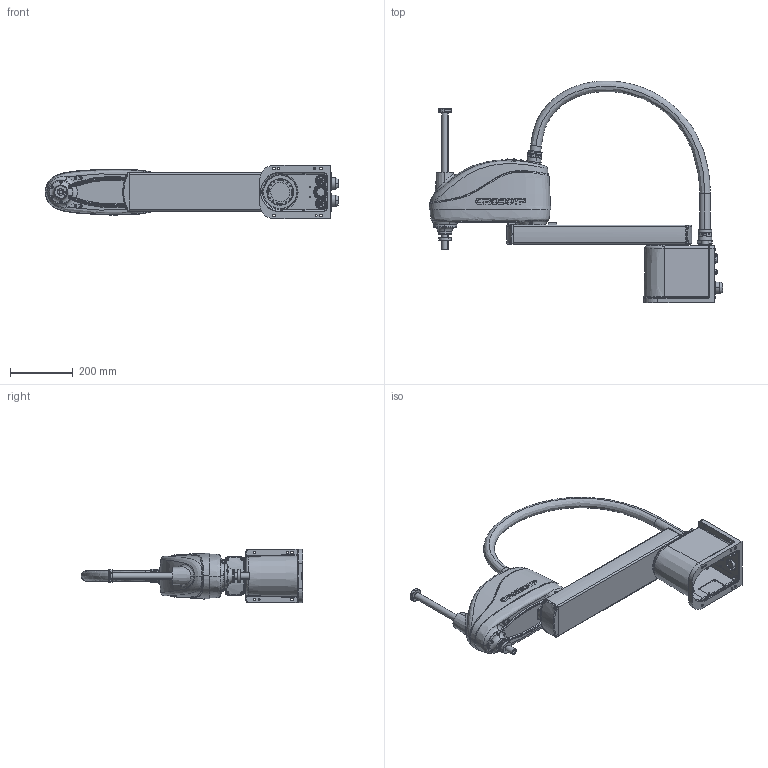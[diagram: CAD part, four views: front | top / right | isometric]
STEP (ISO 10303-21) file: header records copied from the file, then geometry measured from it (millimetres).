
FILE_DESCRIPTION (( 'STEP AP214' ), '1' );
FILE_NAME ('CRP-RS07-06.STEP', '2023-02-21T11:08:40', ( '' ), ( '' ), 'SwSTEP 2.0', 'SolidWorks 2016', '' );
FILE_SCHEMA (( 'AUTOMOTIVE_DESIGN' ));
Length unit declared in the file: millimetre
Products named in the file (7): RS0606-04 佪裝; CRP-RS07-06; 萇擢^Harness_1-CRP-RS07-06; Harness_1-CRP-RS07-06; RS0606-03 苤旋蚾饜极; RS0706-02 湮旋蚾饜极; RS0606-01 菁釱郪璃(淏蚾)
Assembly tree (6 placements, depth 3):
  CRP-RS07-06
    RS0606-01 菁釱郪璃(淏蚾)
    RS0606-03 苤旋蚾饜极
    RS0606-04 佪裝
    RS0706-02 湮旋蚾饜极
    Harness_1-CRP-RS07-06
      萇擢^Harness_1-CRP-RS07-06
Bounding box: 936.14 x 708.55 x 170 mm (x, y, z)
Volume: 18539499.2 mm3; surface area: 1111197.1 mm2
Topology: 33 solids, 86 shells, 4067 faces, 9797 edges, 6110 vertices
Faces by surface type: plane 1753, cylinder 1116, bspline 512, cone 501, torus 143, sphere 42
Entity records: 167004 total; most frequent: CARTESIAN_POINT 62856, ORIENTED_EDGE 19206, DIRECTION 19108, EDGE_CURVE 9603, AXIS2_PLACEMENT_3D 7308, VERTEX_POINT 6070, EDGE_LOOP 4653, VECTOR 4492
